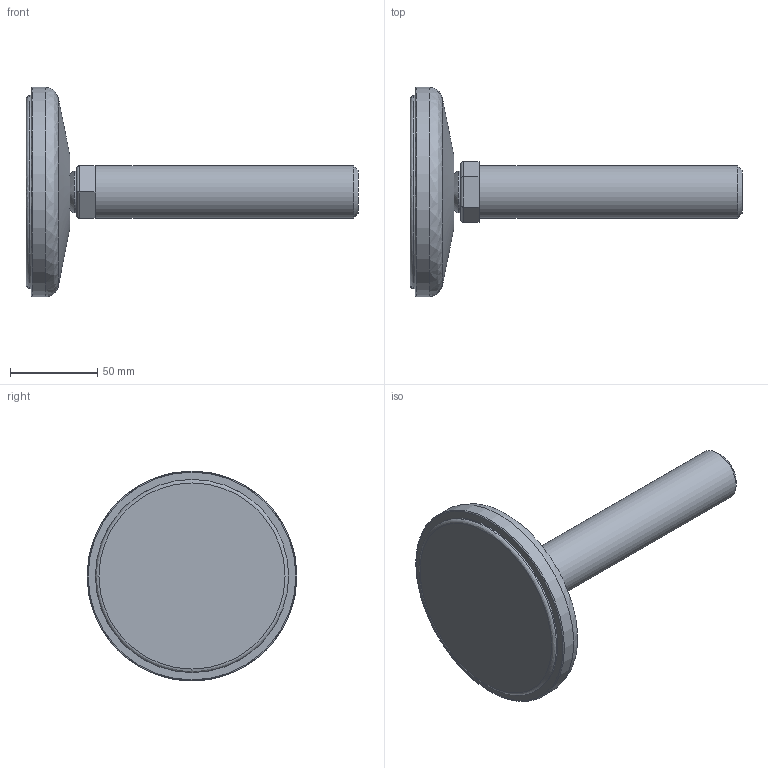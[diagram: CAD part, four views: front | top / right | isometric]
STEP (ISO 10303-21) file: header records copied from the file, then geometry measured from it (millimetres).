
FILE_DESCRIPTION(('STEP AP203'),'2;1');
FILE_NAME('11399-30.stp','2013-11-25T11:24:24',(''),(''),'2008.1.107','THINKDESIGN','');
FILE_SCHEMA(('CONFIG_CONTROL_DESIGN'));
Length unit declared in the file: millimetre
Bounding box: 190 x 120 x 120 mm (x, y, z)
Volume: 313036.4 mm3; surface area: 68200.6 mm2
Topology: 5 solids, 5 shells, 45 faces, 101 edges, 68 vertices
Faces by surface type: cylinder 19, plane 18, bspline 8
Full cylindrical faces by diameter (mm): 11 x1, 24 x2, 30 x1, 110.5 x2, 120 x1
Entity records: 1948 total; most frequent: CARTESIAN_POINT 847, DIRECTION 212, ORIENTED_EDGE 202, EDGE_CURVE 101, AXIS2_PLACEMENT_3D 86, VERTEX_POINT 68, CIRCLE 49, EDGE_LOOP 49
